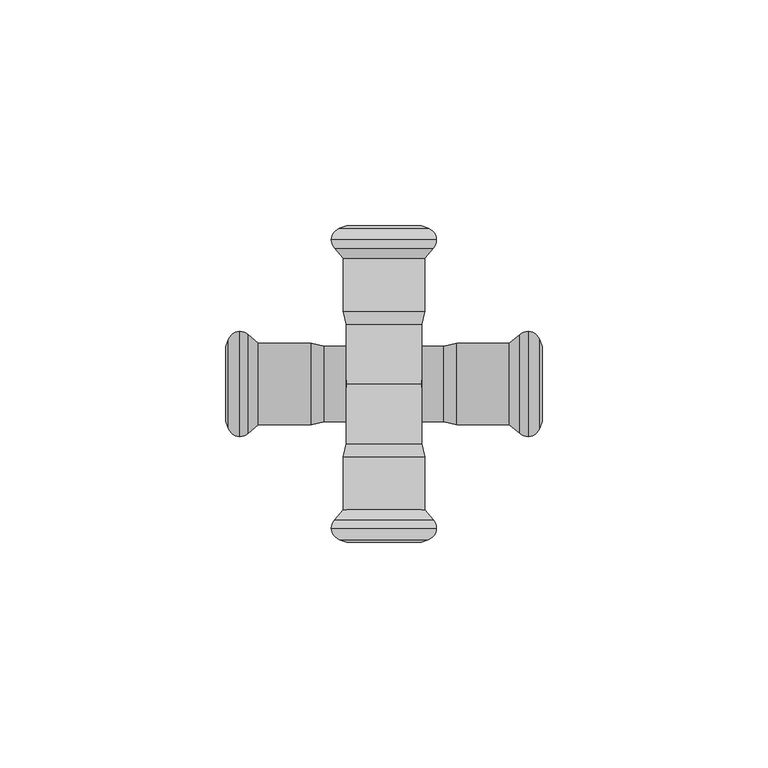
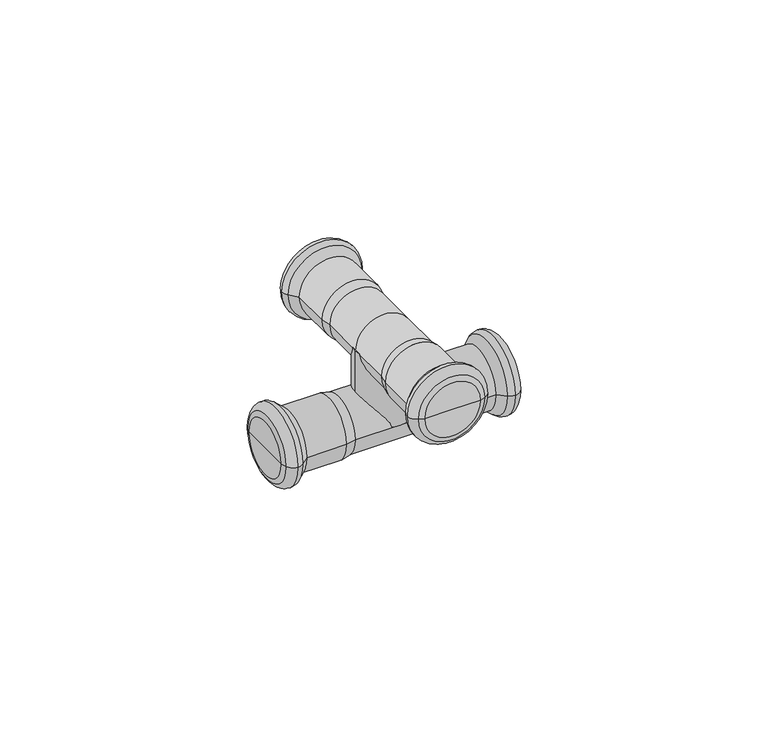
"""IFC4 building model written with IfcOpenShell, lengths in millimetres: pipe fitting geometry, KAN-therm Steel czwórnik przelotowy : KAN-therm Steel czwórnik przelotowy."""

from ifc_helpers import new_model, si_unit, point, frame, origin, origin_with_axes, origin_2d, place, context, project, spatial, polyline, circle_curve, ellipse_curve, trimmed, segment, composite_curve, outline, extrude, source, transform, mapped, element, save
from ifc_brep_helpers import plane_surface, cylinder_surface, revolved_surface, advanced_brep


def pipe_fitting_08f12846(model_context):
    return source(origin(), model_context, "Body", "SolidModel", [
        extrude(outline(composite_curve([segment(trimmed(circle_curve(origin_2d(), 8.4), [point((-8.4, 0.0))], [point((8.4, 0.0))], False, "CARTESIAN"), True, "CONTINUOUS"), segment(trimmed(circle_curve(origin_2d(), 8.4), [point((8.4, 0.0))], [point((-8.4, 0.0))], False, "CARTESIAN"), True, "CONTINUOUS")], self_intersect=False)), origin_with_axes(), (0.0, 0.0, 1.0), 21.0),
        advanced_brep(
        [(30.0922627, -10.9370225, 0.0), (30.0922627, 10.9370225, 0.0), (31.8921278, 11.625, 0.0), (31.8921278, -11.625, 0.0), (27.7838092, -9.0, 0.0), (27.7838092, 9.0, 0.0), (16.1180407, -9.0, 0.0), (16.1180407, 9.0, 0.0), (13.2, -8.4, 0.0), (13.2, 8.4, 0.0), (-13.2, -8.4, 0.0), (-13.2, 8.4, 0.0), (-16.1180407, -9.0, 0.0), (-16.1180407, 9.0, 0.0), (-27.7838092, -9.0, 0.0), (-27.7838092, 9.0, 0.0), (-30.0922627, -10.9370225, 0.0), (-30.0922627, 10.9370225, 0.0), (-31.8921278, -11.625, 0.0), (-31.8921278, 11.625, 0.0), (-34.432052, -9.8484544, 0.0), (-34.432052, 9.8484544, 0.0), (-35.0, -8.2880302, 0.0), (-35.0, 8.2880302, 0.0), (-35.0, 0.0, 0.0), (35.0, -8.2880302, 0.0), (35.0, 8.2880302, 0.0), (35.0, 0.0, 0.0), (34.432052, -9.8484544, 0.0), (34.432052, 9.8484544, 0.0)],
        [
            (0, 1, circle_curve(frame((30.0922627, 0.0, 0.0), z_axis=(1.0, 0.0, 0.0), x_axis=(0.0, 1.0, 0.0)), 10.9370225)),
            (1, 2, circle_curve(frame((31.8935049, 8.9230333, 0.0), z_axis=(0.0, 0.0, -1.0), x_axis=(1.0, 0.0, 0.0)), 2.701967)),
            (2, 3, circle_curve(frame((31.8921278, 0.0, 0.0), z_axis=(-1.0, 0.0, 0.0), x_axis=(0.0, 1.0, 0.0)), 11.625)),
            (3, 0, circle_curve(frame((31.8935049, -8.9230333, 0.0), z_axis=(0.0, 0.0, -1.0), x_axis=(1.0, 0.0, 0.0)), 2.701967)),
            (1, 0, circle_curve(frame((30.0922627, 0.0, 0.0), z_axis=(1.0, 0.0, 0.0), x_axis=(0.0, 1.0, 0.0)), 10.9370225)),
            (3, 2, circle_curve(frame((31.8921278, 0.0, 0.0), z_axis=(-1.0, 0.0, 0.0), x_axis=(0.0, 1.0, 0.0)), 11.625)),
            (0, 4),
            (4, 5, circle_curve(frame((27.7838092, 0.0, 0.0), z_axis=(1.0, 0.0, 0.0), x_axis=(0.0, 1.0, 0.0)), 9.0)),
            (5, 1),
            (5, 4, circle_curve(frame((27.7838092, 0.0, 0.0), z_axis=(1.0, 0.0, 0.0), x_axis=(0.0, 1.0, 0.0)), 9.0)),
            (4, 6),
            (6, 7, circle_curve(frame((16.1180407, 0.0, 0.0), z_axis=(1.0, 0.0, 0.0), x_axis=(0.0, 1.0, 0.0)), 9.0)),
            (7, 5),
            (7, 6, circle_curve(frame((16.1180407, 0.0, 0.0), z_axis=(1.0, 0.0, 0.0), x_axis=(0.0, 1.0, 0.0)), 9.0)),
            (6, 8),
            (8, 9, circle_curve(frame((13.2, 0.0, 0.0), z_axis=(1.0, 0.0, 0.0), x_axis=(0.0, 1.0, 0.0)), 8.4)),
            (9, 7),
            (9, 8, circle_curve(frame((13.2, 0.0, 0.0), z_axis=(1.0, 0.0, 0.0), x_axis=(0.0, 1.0, 0.0)), 8.4)),
            (8, 10),
            (10, 11, circle_curve(frame((-13.2, 0.0, 0.0), z_axis=(1.0, 0.0, 0.0), x_axis=(0.0, 1.0, 0.0)), 8.4)),
            (11, 9),
            (11, 10, circle_curve(frame((-13.2, 0.0, 0.0), z_axis=(1.0, 0.0, 0.0), x_axis=(0.0, 1.0, 0.0)), 8.4)),
            (10, 12),
            (12, 13, circle_curve(frame((-16.1180407, 0.0, 0.0), z_axis=(1.0, 0.0, 0.0), x_axis=(0.0, 1.0, 0.0)), 9.0)),
            (13, 11),
            (13, 12, circle_curve(frame((-16.1180407, 0.0, 0.0), z_axis=(1.0, 0.0, 0.0), x_axis=(0.0, 1.0, 0.0)), 9.0)),
            (12, 14),
            (14, 15, circle_curve(frame((-27.7838092, 0.0, 0.0), z_axis=(1.0, 0.0, 0.0), x_axis=(0.0, 1.0, 0.0)), 9.0)),
            (15, 13),
            (15, 14, circle_curve(frame((-27.7838092, 0.0, 0.0), z_axis=(1.0, 0.0, 0.0), x_axis=(0.0, 1.0, 0.0)), 9.0)),
            (14, 16),
            (16, 17, circle_curve(frame((-30.0922627, 0.0, 0.0), z_axis=(1.0, 0.0, 0.0), x_axis=(0.0, 1.0, 0.0)), 10.9370225)),
            (17, 15),
            (17, 16, circle_curve(frame((-30.0922627, 0.0, 0.0), z_axis=(1.0, 0.0, 0.0), x_axis=(0.0, 1.0, 0.0)), 10.9370225)),
            (16, 18, circle_curve(frame((-31.8935049, -8.9230333, 0.0), z_axis=(0.0, 0.0, -1.0), x_axis=(1.0, 0.0, 0.0)), 2.701967)),
            (18, 19, circle_curve(frame((-31.8921278, 0.0, 0.0), z_axis=(1.0, 0.0, 0.0), x_axis=(0.0, 1.0, 0.0)), 11.625)),
            (19, 17, circle_curve(frame((-31.8935049, 8.9230333, 0.0), z_axis=(0.0, 0.0, -1.0), x_axis=(1.0, 0.0, 0.0)), 2.701967)),
            (19, 18, circle_curve(frame((-31.8921278, 0.0, 0.0), z_axis=(1.0, 0.0, 0.0), x_axis=(0.0, 1.0, 0.0)), 11.625)),
            (18, 20, circle_curve(frame((-31.89488, -8.9249993, 0.0), z_axis=(0.0, 0.0, -1.0), x_axis=(1.0, 0.0, 0.0)), 2.7000021)),
            (20, 21, circle_curve(frame((-34.432052, 0.0, 0.0), z_axis=(1.0, 0.0, 0.0), x_axis=(0.0, 1.0, 0.0)), 9.8484544)),
            (21, 19, circle_curve(frame((-31.89488, 8.9249993, 0.0), z_axis=(0.0, 0.0, -1.0), x_axis=(1.0, 0.0, 0.0)), 2.7000021)),
            (21, 20, circle_curve(frame((-34.432052, 0.0, 0.0), z_axis=(1.0, 0.0, 0.0), x_axis=(0.0, 1.0, 0.0)), 9.8484544)),
            (20, 22),
            (22, 23, circle_curve(frame((-35.0, 0.0, 0.0), z_axis=(1.0, 0.0, 0.0), x_axis=(0.0, 1.0, 0.0)), 8.2880302)),
            (23, 21),
            (23, 22, circle_curve(frame((-35.0, 0.0, 0.0), z_axis=(1.0, 0.0, 0.0), x_axis=(0.0, 1.0, 0.0)), 8.2880302)),
            (22, 24),
            (24, 23),
            (25, 26, circle_curve(frame((35.0, 0.0, 0.0), z_axis=(1.0, 0.0, 0.0), x_axis=(0.0, 1.0, 0.0)), 8.2880302)),
            (26, 27),
            (27, 25),
            (26, 25, circle_curve(frame((35.0, 0.0, 0.0), z_axis=(1.0, 0.0, 0.0), x_axis=(0.0, 1.0, 0.0)), 8.2880302)),
            (25, 28),
            (28, 29, circle_curve(frame((34.432052, 0.0, 0.0), z_axis=(1.0, 0.0, 0.0), x_axis=(0.0, 1.0, 0.0)), 9.8484544)),
            (29, 26),
            (29, 28, circle_curve(frame((34.432052, 0.0, 0.0), z_axis=(1.0, 0.0, 0.0), x_axis=(0.0, 1.0, 0.0)), 9.8484544)),
            (2, 29, circle_curve(frame((31.89488, 8.9249993, 0.0), z_axis=(0.0, 0.0, -1.0), x_axis=(1.0, 0.0, 0.0)), 2.7000021)),
            (28, 3, circle_curve(frame((31.89488, -8.9249993, 0.0), z_axis=(0.0, 0.0, -1.0), x_axis=(1.0, 0.0, 0.0)), 2.7000021)),
        ],
        [
            revolved_surface(trimmed(ellipse_curve(frame((31.8935049, 8.9230333, 0.0), z_axis=(0.0, 0.0, 1.0), x_axis=(1.0, 0.0, 0.0)), 2.701967, 2.701967), [point((31.8921278, 11.625, 0.0))], [point((30.0922627, 10.9370225, 0.0))], True, "CARTESIAN"), (1348.742668, 0.0, 0.0), (-1.0, 0.0, 0.0)),
            revolved_surface(polyline([(30.0922627, 10.9370225, 0.0), (27.7838092, 9.0, 0.0)]), (1348.742668, 0.0, 0.0), (-1.0, 0.0, 0.0)),
            cylinder_surface(frame((1348.742668, 0.0, 0.0), z_axis=(-1.0, 0.0, 0.0), x_axis=(0.0, 1.0, 0.0)), 9.0),
            revolved_surface(polyline([(16.1180407, 9.0, 0.0), (13.2, 8.4, 0.0)]), (1348.742668, 0.0, 0.0), (-1.0, 0.0, 0.0)),
            cylinder_surface(frame((1348.742668, 0.0, 0.0), z_axis=(-1.0, 0.0, 0.0), x_axis=(0.0, 1.0, 0.0)), 8.4),
            revolved_surface(polyline([(-13.2, 8.4, 0.0), (-16.1180407, 9.0, 0.0)]), (1348.742668, 0.0, 0.0), (-1.0, 0.0, 0.0)),
            revolved_surface(polyline([(-27.7838092, 9.0, 0.0), (-30.0922627, 10.9370225, 0.0)]), (1348.742668, 0.0, 0.0), (-1.0, 0.0, 0.0)),
            revolved_surface(trimmed(ellipse_curve(frame((-31.8935049, 8.9230333, 0.0), z_axis=(0.0, 0.0, 1.0), x_axis=(1.0, 0.0, 0.0)), 2.701967, 2.701967), [point((-30.0922627, 10.9370225, 0.0))], [point((-31.8921278, 11.625, 0.0))], True, "CARTESIAN"), (1348.742668, 0.0, 0.0), (-1.0, 0.0, 0.0)),
            revolved_surface(trimmed(ellipse_curve(frame((-31.89488, 8.9249993, 0.0), z_axis=(0.0, 0.0, 1.0), x_axis=(1.0, 0.0, 0.0)), 2.7000021, 2.7000021), [point((-31.8921278, 11.625, 0.0))], [point((-34.432052, 9.8484544, 0.0))], True, "CARTESIAN"), (1348.742668, 0.0, 0.0), (-1.0, 0.0, 0.0)),
            revolved_surface(polyline([(-34.432052, 9.8484544, 0.0), (-35.0, 8.2880302, 0.0)]), (1348.742668, 0.0, 0.0), (-1.0, 0.0, 0.0)),
            plane_surface(frame((-35.0, 0.0, 0.0), z_axis=(-1.0, 0.0, 0.0), x_axis=(0.0, 1.0, 0.0))),
            plane_surface(frame((35.0, 0.0, 0.0), z_axis=(1.0, 0.0, 0.0), x_axis=(0.0, 1.0, 0.0))),
            revolved_surface(polyline([(35.0, 8.2880302, 0.0), (34.432052, 9.8484544, 0.0)]), (1348.742668, 0.0, 0.0), (-1.0, 0.0, 0.0)),
            revolved_surface(trimmed(ellipse_curve(frame((31.89488, 8.9249993, 0.0), z_axis=(0.0, 0.0, 1.0), x_axis=(1.0, 0.0, 0.0)), 2.7000021, 2.7000021), [point((34.432052, 9.8484544, 0.0))], [point((31.8921278, 11.625, 0.0))], True, "CARTESIAN"), (1348.742668, 0.0, 0.0), (-1.0, 0.0, 0.0)),
        ],
        [
            (0, [[1, 2, 3, 4]]),
            (0, [[-2, 5, -4, 6]]),
            (1, [[-1, 7, 8, 9]]),
            (1, [[-5, -9, 10, -7]]),
            (2, [[-8, 11, 12, 13]]),
            (2, [[-10, -13, 14, -11]]),
            (3, [[-12, 15, 16, 17]]),
            (3, [[-14, -17, 18, -15]]),
            (4, [[-16, 19, 20, 21]]),
            (4, [[-18, -21, 22, -19]]),
            (5, [[-20, 23, 24, 25]]),
            (5, [[-22, -25, 26, -23]]),
            (2, [[-24, 27, 28, 29]]),
            (2, [[-26, -29, 30, -27]]),
            (6, [[-28, 31, 32, 33]]),
            (6, [[-30, -33, 34, -31]]),
            (7, [[-32, 35, 36, 37]]),
            (7, [[-34, -37, 38, -35]]),
            (8, [[-36, 39, 40, 41]]),
            (8, [[-38, -41, 42, -39]]),
            (9, [[-40, 43, 44, 45]]),
            (9, [[-42, -45, 46, -43]]),
            (10, [[-44, 47, 48]]),
            (10, [[-46, -48, -47]]),
            (11, [[49, 50, 51]]),
            (11, [[-50, 52, -51]]),
            (12, [[-49, 53, 54, 55]]),
            (12, [[-52, -55, 56, -53]]),
            (13, [[-3, 57, -54, 58]]),
            (13, [[-6, -58, -56, -57]]),
        ],
    ),
        advanced_brep(
        [(10.9370225, 30.0922627, 21.0), (-10.9370225, 30.0922627, 21.0), (-11.625, 31.8921278, 21.0), (11.625, 31.8921278, 21.0), (9.0, 27.7838092, 21.0), (-9.0, 27.7838092, 21.0), (9.0, 16.1180407, 21.0), (-9.0, 16.1180407, 21.0), (8.2880302, 35.0, 21.0), (-8.2880302, 35.0, 21.0), (0.0, 35.0, 21.0), (9.8484544, 34.432052, 21.0), (-9.8484544, 34.432052, 21.0), (8.4, 13.2, 21.0), (-8.4, 13.2, 21.0), (8.4, 0.0, 21.0), (-8.4, 0.0, 21.0), (8.4, -13.2, 21.0), (-8.4, -13.2, 21.0), (9.0, -16.1180407, 21.0), (-9.0, -16.1180407, 21.0), (9.0, -27.7838092, 21.0), (-9.0, -27.7838092, 21.0), (10.9370225, -30.0922627, 21.0), (-10.9370225, -30.0922627, 21.0), (11.625, -31.8921278, 21.0), (-11.625, -31.8921278, 21.0), (9.8484544, -34.432052, 21.0), (-9.8484544, -34.432052, 21.0), (8.2880302, -35.0, 21.0), (-8.2880302, -35.0, 21.0), (0.0, -35.0, 21.0)],
        [
            (0, 1, circle_curve(frame((0.0, 30.0922627, 21.0), z_axis=(0.0, 1.0, 0.0), x_axis=(-1.0, 0.0, 0.0)), 10.9370225)),
            (1, 2, circle_curve(frame((-8.9230333, 31.8935049, 21.0), z_axis=(0.0, 0.0, -1.0), x_axis=(0.0, 1.0, 0.0)), 2.701967)),
            (2, 3, circle_curve(frame((0.0, 31.8921278, 21.0), z_axis=(0.0, -1.0, 0.0), x_axis=(-1.0, 0.0, 0.0)), 11.625)),
            (3, 0, circle_curve(frame((8.9230333, 31.8935049, 21.0), z_axis=(0.0, 0.0, -1.0), x_axis=(0.0, 1.0, 0.0)), 2.701967)),
            (1, 0, circle_curve(frame((0.0, 30.0922627, 21.0), z_axis=(0.0, 1.0, 0.0), x_axis=(-1.0, 0.0, 0.0)), 10.9370225)),
            (3, 2, circle_curve(frame((0.0, 31.8921278, 21.0), z_axis=(0.0, -1.0, 0.0), x_axis=(-1.0, 0.0, 0.0)), 11.625)),
            (0, 4),
            (4, 5, circle_curve(frame((0.0, 27.7838092, 21.0), z_axis=(0.0, 1.0, 0.0), x_axis=(-1.0, 0.0, 0.0)), 9.0)),
            (5, 1),
            (5, 4, circle_curve(frame((0.0, 27.7838092, 21.0), z_axis=(0.0, 1.0, 0.0), x_axis=(-1.0, 0.0, 0.0)), 9.0)),
            (4, 6),
            (6, 7, circle_curve(frame((0.0, 16.1180407, 21.0), z_axis=(0.0, 1.0, 0.0), x_axis=(-1.0, 0.0, 0.0)), 9.0)),
            (7, 5),
            (7, 6, circle_curve(frame((0.0, 16.1180407, 21.0), z_axis=(0.0, 1.0, 0.0), x_axis=(-1.0, 0.0, 0.0)), 9.0)),
            (8, 9, circle_curve(frame((0.0, 35.0, 21.0), z_axis=(0.0, 1.0, 0.0), x_axis=(-1.0, 0.0, 0.0)), 8.2880302)),
            (9, 10),
            (10, 8),
            (9, 8, circle_curve(frame((0.0, 35.0, 21.0), z_axis=(0.0, 1.0, 0.0), x_axis=(-1.0, 0.0, 0.0)), 8.2880302)),
            (8, 11),
            (11, 12, circle_curve(frame((0.0, 34.432052, 21.0), z_axis=(0.0, 1.0, 0.0), x_axis=(-1.0, 0.0, 0.0)), 9.8484544)),
            (12, 9),
            (12, 11, circle_curve(frame((0.0, 34.432052, 21.0), z_axis=(0.0, 1.0, 0.0), x_axis=(-1.0, 0.0, 0.0)), 9.8484544)),
            (2, 12, circle_curve(frame((-8.9249993, 31.89488, 21.0), z_axis=(0.0, 0.0, -1.0), x_axis=(0.0, 1.0, 0.0)), 2.7000021)),
            (11, 3, circle_curve(frame((8.9249993, 31.89488, 21.0), z_axis=(0.0, 0.0, -1.0), x_axis=(0.0, 1.0, 0.0)), 2.7000021)),
            (6, 13),
            (13, 14, circle_curve(frame((0.0, 13.2, 21.0), z_axis=(0.0, 1.0, 0.0), x_axis=(-1.0, 0.0, 0.0)), 8.4)),
            (14, 7),
            (14, 13, circle_curve(frame((0.0, 13.2, 21.0), z_axis=(0.0, 1.0, 0.0), x_axis=(-1.0, 0.0, 0.0)), 8.4)),
            (13, 15),
            (15, 16, circle_curve(frame((0.0, 0.0, 21.0), z_axis=(0.0, 1.0, 0.0), x_axis=(-1.0, 0.0, 0.0)), 8.4)),
            (16, 14),
            (16, 15, circle_curve(frame((0.0, 0.0, 21.0), z_axis=(0.0, 1.0, 0.0), x_axis=(-1.0, 0.0, 0.0)), 8.4)),
            (15, 17),
            (17, 18, circle_curve(frame((0.0, -13.2, 21.0), z_axis=(0.0, 1.0, 0.0), x_axis=(-1.0, 0.0, 0.0)), 8.4)),
            (18, 16),
            (18, 17, circle_curve(frame((0.0, -13.2, 21.0), z_axis=(0.0, 1.0, 0.0), x_axis=(-1.0, 0.0, 0.0)), 8.4)),
            (17, 19),
            (19, 20, circle_curve(frame((0.0, -16.1180407, 21.0), z_axis=(0.0, 1.0, 0.0), x_axis=(-1.0, 0.0, 0.0)), 9.0)),
            (20, 18),
            (20, 19, circle_curve(frame((0.0, -16.1180407, 21.0), z_axis=(0.0, 1.0, 0.0), x_axis=(-1.0, 0.0, 0.0)), 9.0)),
            (19, 21),
            (21, 22, circle_curve(frame((0.0, -27.7838092, 21.0), z_axis=(0.0, 1.0, 0.0), x_axis=(-1.0, 0.0, 0.0)), 9.0)),
            (22, 20),
            (22, 21, circle_curve(frame((0.0, -27.7838092, 21.0), z_axis=(0.0, 1.0, 0.0), x_axis=(-1.0, 0.0, 0.0)), 9.0)),
            (21, 23),
            (23, 24, circle_curve(frame((0.0, -30.0922627, 21.0), z_axis=(0.0, 1.0, 0.0), x_axis=(-1.0, 0.0, 0.0)), 10.9370225)),
            (24, 22),
            (24, 23, circle_curve(frame((0.0, -30.0922627, 21.0), z_axis=(0.0, 1.0, 0.0), x_axis=(-1.0, 0.0, 0.0)), 10.9370225)),
            (23, 25, circle_curve(frame((8.9230333, -31.8935049, 21.0), z_axis=(0.0, 0.0, -1.0), x_axis=(0.0, 1.0, 0.0)), 2.701967)),
            (25, 26, circle_curve(frame((0.0, -31.8921278, 21.0), z_axis=(0.0, 1.0, 0.0), x_axis=(-1.0, 0.0, 0.0)), 11.625)),
            (26, 24, circle_curve(frame((-8.9230333, -31.8935049, 21.0), z_axis=(0.0, 0.0, -1.0), x_axis=(0.0, 1.0, 0.0)), 2.701967)),
            (26, 25, circle_curve(frame((0.0, -31.8921278, 21.0), z_axis=(0.0, 1.0, 0.0), x_axis=(-1.0, 0.0, 0.0)), 11.625)),
            (25, 27, circle_curve(frame((8.9249993, -31.89488, 21.0), z_axis=(0.0, 0.0, -1.0), x_axis=(0.0, 1.0, 0.0)), 2.7000021)),
            (27, 28, circle_curve(frame((0.0, -34.432052, 21.0), z_axis=(0.0, 1.0, 0.0), x_axis=(-1.0, 0.0, 0.0)), 9.8484544)),
            (28, 26, circle_curve(frame((-8.9249993, -31.89488, 21.0), z_axis=(0.0, 0.0, -1.0), x_axis=(0.0, 1.0, 0.0)), 2.7000021)),
            (28, 27, circle_curve(frame((0.0, -34.432052, 21.0), z_axis=(0.0, 1.0, 0.0), x_axis=(-1.0, 0.0, 0.0)), 9.8484544)),
            (27, 29),
            (29, 30, circle_curve(frame((0.0, -35.0, 21.0), z_axis=(0.0, 1.0, 0.0), x_axis=(-1.0, 0.0, 0.0)), 8.2880302)),
            (30, 28),
            (30, 29, circle_curve(frame((0.0, -35.0, 21.0), z_axis=(0.0, 1.0, 0.0), x_axis=(-1.0, 0.0, 0.0)), 8.2880302)),
            (29, 31),
            (31, 30),
        ],
        [
            revolved_surface(trimmed(ellipse_curve(frame((-8.9230333, 31.8935049, 21.0), z_axis=(0.0, 0.0, 1.0), x_axis=(0.0, 1.0, 0.0)), 2.701967, 2.701967), [point((-11.625, 31.8921278, 21.0))], [point((-10.9370225, 30.0922627, 21.0))], True, "CARTESIAN"), (0.0, 1996.0, 21.0), (0.0, -1.0, 0.0)),
            revolved_surface(polyline([(-10.9370225, 30.0922627, 21.0), (-9.0, 27.7838092, 21.0)]), (0.0, 1996.0, 21.0), (0.0, -1.0, 0.0)),
            cylinder_surface(frame((0.0, 1996.0, 21.0), z_axis=(0.0, -1.0, 0.0), x_axis=(-1.0, 0.0, 0.0)), 9.0),
            plane_surface(frame((0.0, 35.0, 21.0), z_axis=(0.0, 1.0, 0.0), x_axis=(-1.0, 0.0, 0.0))),
            revolved_surface(polyline([(-8.2880302, 35.0, 21.0), (-9.8484544, 34.432052, 21.0)]), (0.0, 1996.0, 21.0), (0.0, -1.0, 0.0)),
            revolved_surface(trimmed(ellipse_curve(frame((-8.9249993, 31.89488, 21.0), z_axis=(0.0, 0.0, 1.0), x_axis=(0.0, 1.0, 0.0)), 2.7000021, 2.7000021), [point((-9.8484544, 34.432052, 21.0))], [point((-11.625, 31.8921278, 21.0))], True, "CARTESIAN"), (0.0, 1996.0, 21.0), (0.0, -1.0, 0.0)),
            revolved_surface(polyline([(-9.0, 16.1180407, 21.0), (-8.4, 13.2, 21.0)]), (0.0, 1996.0, 21.0), (0.0, -1.0, 0.0)),
            cylinder_surface(frame((0.0, 1996.0, 21.0), z_axis=(0.0, -1.0, 0.0), x_axis=(-1.0, 0.0, 0.0)), 8.4),
            revolved_surface(polyline([(-8.4, -13.2, 21.0), (-9.0, -16.1180407, 21.0)]), (0.0, 1996.0, 21.0), (0.0, -1.0, 0.0)),
            revolved_surface(polyline([(-9.0, -27.7838092, 21.0), (-10.9370225, -30.0922627, 21.0)]), (0.0, 1996.0, 21.0), (0.0, -1.0, 0.0)),
            revolved_surface(trimmed(ellipse_curve(frame((-8.9230333, -31.8935049, 21.0), z_axis=(0.0, 0.0, 1.0), x_axis=(0.0, 1.0, 0.0)), 2.701967, 2.701967), [point((-10.9370225, -30.0922627, 21.0))], [point((-11.625, -31.8921278, 21.0))], True, "CARTESIAN"), (0.0, 1996.0, 21.0), (0.0, -1.0, 0.0)),
            revolved_surface(trimmed(ellipse_curve(frame((-8.9249993, -31.89488, 21.0), z_axis=(0.0, 0.0, 1.0), x_axis=(0.0, 1.0, 0.0)), 2.7000021, 2.7000021), [point((-11.625, -31.8921278, 21.0))], [point((-9.8484544, -34.432052, 21.0))], True, "CARTESIAN"), (0.0, 1996.0, 21.0), (0.0, -1.0, 0.0)),
            revolved_surface(polyline([(-9.8484544, -34.432052, 21.0), (-8.2880302, -35.0, 21.0)]), (0.0, 1996.0, 21.0), (0.0, -1.0, 0.0)),
            plane_surface(frame((0.0, -35.0, 21.0), z_axis=(0.0, -1.0, 0.0), x_axis=(-1.0, 0.0, 0.0))),
        ],
        [
            (0, [[1, 2, 3, 4]]),
            (0, [[-2, 5, -4, 6]]),
            (1, [[-1, 7, 8, 9]]),
            (1, [[-5, -9, 10, -7]]),
            (2, [[-8, 11, 12, 13]]),
            (2, [[-10, -13, 14, -11]]),
            (3, [[15, 16, 17]]),
            (3, [[-16, 18, -17]]),
            (4, [[-15, 19, 20, 21]]),
            (4, [[-18, -21, 22, -19]]),
            (5, [[-3, 23, -20, 24]]),
            (5, [[-6, -24, -22, -23]]),
            (6, [[-12, 25, 26, 27]]),
            (6, [[-14, -27, 28, -25]]),
            (7, [[-26, 29, 30, 31]]),
            (7, [[-28, -31, 32, -29]]),
            (7, [[-30, 33, 34, 35]]),
            (7, [[-32, -35, 36, -33]]),
            (8, [[-34, 37, 38, 39]]),
            (8, [[-36, -39, 40, -37]]),
            (2, [[-38, 41, 42, 43]]),
            (2, [[-40, -43, 44, -41]]),
            (9, [[-42, 45, 46, 47]]),
            (9, [[-44, -47, 48, -45]]),
            (10, [[-46, 49, 50, 51]]),
            (10, [[-48, -51, 52, -49]]),
            (11, [[-50, 53, 54, 55]]),
            (11, [[-52, -55, 56, -53]]),
            (12, [[-54, 57, 58, 59]]),
            (12, [[-56, -59, 60, -57]]),
            (13, [[-58, 61, 62]]),
            (13, [[-60, -62, -61]]),
        ],
    ),
    ])


if __name__ == "__main__":
    model = new_model("IFC4")
    model_context = context("Model", 3, world=origin())
    ifc_project = project(units=[si_unit("LENGTHUNIT", "METRE", prefix="MILLI")], contexts=[model_context])
    site = spatial("IfcSite", under=ifc_project)
    building = spatial("IfcBuilding", under=site)
    placement = place(None, origin())
    pipe_fitting_shape = pipe_fitting_08f12846(model_context)
    element("IfcPipeFitting", 1, ObjectType="KAN-therm Steel czwórnik przelotowy : KAN-therm Steel czwórnik przelotowy", at=placement, inside=building, context=model_context, shape_type="MappedRepresentation", body=[
        mapped(pipe_fitting_shape, transform((0.0, 0.0, 0.0), x_axis=(1.0, 0.0, 0.0), y_axis=(0.0, 1.0, 0.0), z_axis=(0.0, 0.0, 1.0))),
    ])
    save(model, "model.ifc")
